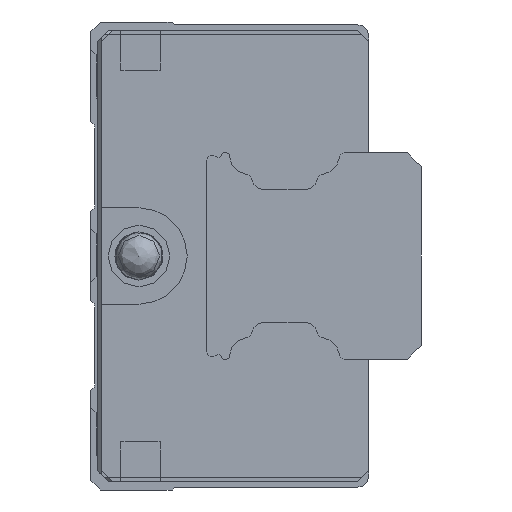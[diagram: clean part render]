
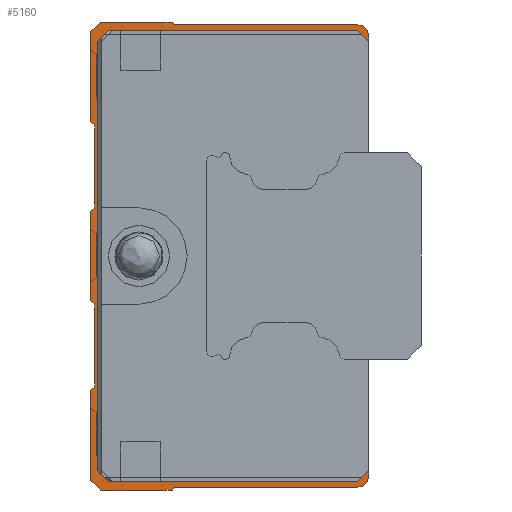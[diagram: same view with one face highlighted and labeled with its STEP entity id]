
A CAD part, left-side view. The second image highlights one B-rep face of the part: STEP entity #5160.
In plain terms, the highlighted planar face has unit normal (-1, 0, 0).
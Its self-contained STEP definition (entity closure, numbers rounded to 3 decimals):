
#67=LINE('',#7968,#383);
#76=LINE('',#7987,#392);
#83=LINE('',#8000,#399);
#109=LINE('',#8056,#425);
#117=LINE('',#8072,#433);
#123=LINE('',#8084,#439);
#148=LINE('',#8135,#464);
#153=LINE('',#8144,#469);
#155=LINE('',#8148,#471);
#159=LINE('',#8155,#475);
#163=LINE('',#8164,#479);
#166=LINE('',#8170,#482);
#170=LINE('',#8182,#486);
#174=LINE('',#8197,#490);
#178=LINE('',#8209,#494);
#181=LINE('',#8215,#497);
#184=LINE('',#8221,#500);
#187=LINE('',#8231,#503);
#190=LINE('',#8237,#506);
#194=LINE('',#8249,#510);
#198=LINE('',#8261,#514);
#201=LINE('',#8271,#517);
#204=LINE('',#8277,#520);
#208=LINE('',#8289,#524);
#212=LINE('',#8301,#528);
#215=LINE('',#8311,#531);
#383=VECTOR('',#6268,1000.);
#392=VECTOR('',#6283,1000.);
#399=VECTOR('',#6294,1000.);
#425=VECTOR('',#6334,1000.);
#433=VECTOR('',#6346,1000.);
#439=VECTOR('',#6358,1000.);
#464=VECTOR('',#6399,1000.);
#469=VECTOR('',#6406,1000.);
#471=VECTOR('',#6410,1000.);
#475=VECTOR('',#6416,1000.);
#479=VECTOR('',#6422,1000.);
#482=VECTOR('',#6427,1000.);
#486=VECTOR('',#6439,1000.);
#490=VECTOR('',#6457,1000.);
#494=VECTOR('',#6469,1000.);
#497=VECTOR('',#6474,1000.);
#500=VECTOR('',#6479,1000.);
#503=VECTOR('',#6488,1000.);
#506=VECTOR('',#6493,1000.);
#510=VECTOR('',#6505,1000.);
#514=VECTOR('',#6517,1000.);
#517=VECTOR('',#6526,1000.);
#520=VECTOR('',#6531,1000.);
#524=VECTOR('',#6543,1000.);
#528=VECTOR('',#6555,1000.);
#531=VECTOR('',#6564,1000.);
#733=PLANE('',#5588);
#1342=ORIENTED_EDGE('',*,*,#2398,.T.);
#1343=ORIENTED_EDGE('',*,*,#2405,.T.);
#1344=ORIENTED_EDGE('',*,*,#2478,.F.);
#1345=ORIENTED_EDGE('',*,*,#2500,.F.);
#1346=ORIENTED_EDGE('',*,*,#2497,.F.);
#1347=ORIENTED_EDGE('',*,*,#2494,.T.);
#1348=ORIENTED_EDGE('',*,*,#2491,.F.);
#1349=ORIENTED_EDGE('',*,*,#2488,.F.);
#1350=ORIENTED_EDGE('',*,*,#2484,.F.);
#1351=ORIENTED_EDGE('',*,*,#2562,.F.);
#1352=ORIENTED_EDGE('',*,*,#2557,.F.);
#1353=ORIENTED_EDGE('',*,*,#2554,.T.);
#1354=ORIENTED_EDGE('',*,*,#2551,.F.);
#1355=ORIENTED_EDGE('',*,*,#2548,.T.);
#1356=ORIENTED_EDGE('',*,*,#2545,.F.);
#1357=ORIENTED_EDGE('',*,*,#2542,.F.);
#1358=ORIENTED_EDGE('',*,*,#2537,.F.);
#1359=ORIENTED_EDGE('',*,*,#2534,.T.);
#1360=ORIENTED_EDGE('',*,*,#2531,.F.);
#1361=ORIENTED_EDGE('',*,*,#2528,.T.);
#1362=ORIENTED_EDGE('',*,*,#2525,.F.);
#1363=ORIENTED_EDGE('',*,*,#2522,.F.);
#1364=ORIENTED_EDGE('',*,*,#2517,.F.);
#1365=ORIENTED_EDGE('',*,*,#2514,.F.);
#1366=ORIENTED_EDGE('',*,*,#2511,.F.);
#1367=ORIENTED_EDGE('',*,*,#2508,.T.);
#1368=ORIENTED_EDGE('',*,*,#2505,.F.);
#1369=ORIENTED_EDGE('',*,*,#2502,.F.);
#1370=ORIENTED_EDGE('',*,*,#2480,.F.);
#1371=ORIENTED_EDGE('',*,*,#2440,.T.);
#1372=ORIENTED_EDGE('',*,*,#2447,.T.);
#1373=ORIENTED_EDGE('',*,*,#2432,.T.);
#1374=ORIENTED_EDGE('',*,*,#2473,.T.);
#1375=ORIENTED_EDGE('',*,*,#2388,.T.);
#2388=EDGE_CURVE('',#3047,#3046,#67,.T.);
#2398=EDGE_CURVE('',#3046,#3053,#76,.T.);
#2405=EDGE_CURVE('',#3053,#3057,#83,.T.);
#2432=EDGE_CURVE('',#3081,#3080,#109,.T.);
#2440=EDGE_CURVE('',#3087,#3086,#117,.T.);
#2447=EDGE_CURVE('',#3086,#3081,#123,.T.);
#2473=EDGE_CURVE('',#3080,#3047,#148,.T.);
#2478=EDGE_CURVE('',#3110,#3057,#153,.T.);
#2480=EDGE_CURVE('',#3087,#3112,#155,.T.);
#2484=EDGE_CURVE('',#3114,#3115,#159,.T.);
#2488=EDGE_CURVE('',#3115,#3118,#163,.T.);
#2491=EDGE_CURVE('',#3118,#3120,#166,.T.);
#2494=EDGE_CURVE('',#3122,#3120,#3543,.T.);
#2497=EDGE_CURVE('',#3122,#3124,#170,.T.);
#2500=EDGE_CURVE('',#3124,#3110,#3545,.T.);
#2502=EDGE_CURVE('',#3112,#3126,#3547,.T.);
#2505=EDGE_CURVE('',#3126,#3128,#174,.T.);
#2508=EDGE_CURVE('',#3130,#3128,#3549,.T.);
#2511=EDGE_CURVE('',#3130,#3132,#178,.T.);
#2514=EDGE_CURVE('',#3132,#3134,#181,.T.);
#2517=EDGE_CURVE('',#3134,#3136,#184,.T.);
#2522=EDGE_CURVE('',#3136,#3140,#187,.T.);
#2525=EDGE_CURVE('',#3140,#3142,#190,.T.);
#2528=EDGE_CURVE('',#3144,#3142,#3553,.T.);
#2531=EDGE_CURVE('',#3144,#3146,#194,.T.);
#2534=EDGE_CURVE('',#3148,#3146,#3555,.T.);
#2537=EDGE_CURVE('',#3148,#3150,#198,.T.);
#2542=EDGE_CURVE('',#3150,#3154,#201,.T.);
#2545=EDGE_CURVE('',#3154,#3156,#204,.T.);
#2548=EDGE_CURVE('',#3158,#3156,#3559,.T.);
#2551=EDGE_CURVE('',#3158,#3160,#208,.T.);
#2554=EDGE_CURVE('',#3162,#3160,#3561,.T.);
#2557=EDGE_CURVE('',#3162,#3164,#212,.T.);
#2562=EDGE_CURVE('',#3164,#3114,#215,.T.);
#3046=VERTEX_POINT('',#7967);
#3047=VERTEX_POINT('',#7969);
#3053=VERTEX_POINT('',#7986);
#3057=VERTEX_POINT('',#7999);
#3080=VERTEX_POINT('',#8055);
#3081=VERTEX_POINT('',#8057);
#3086=VERTEX_POINT('',#8071);
#3087=VERTEX_POINT('',#8073);
#3110=VERTEX_POINT('',#8143);
#3112=VERTEX_POINT('',#8149);
#3114=VERTEX_POINT('',#8156);
#3115=VERTEX_POINT('',#8157);
#3118=VERTEX_POINT('',#8165);
#3120=VERTEX_POINT('',#8171);
#3122=VERTEX_POINT('',#8177);
#3124=VERTEX_POINT('',#8183);
#3126=VERTEX_POINT('',#8192);
#3128=VERTEX_POINT('',#8198);
#3130=VERTEX_POINT('',#8204);
#3132=VERTEX_POINT('',#8210);
#3134=VERTEX_POINT('',#8216);
#3136=VERTEX_POINT('',#8222);
#3140=VERTEX_POINT('',#8232);
#3142=VERTEX_POINT('',#8238);
#3144=VERTEX_POINT('',#8244);
#3146=VERTEX_POINT('',#8250);
#3148=VERTEX_POINT('',#8256);
#3150=VERTEX_POINT('',#8262);
#3154=VERTEX_POINT('',#8272);
#3156=VERTEX_POINT('',#8278);
#3158=VERTEX_POINT('',#8284);
#3160=VERTEX_POINT('',#8290);
#3162=VERTEX_POINT('',#8296);
#3164=VERTEX_POINT('',#8302);
#3543=CIRCLE('',#5544,0.3);
#3545=CIRCLE('',#5548,0.8);
#3547=CIRCLE('',#5551,0.8);
#3549=CIRCLE('',#5555,0.3);
#3553=CIRCLE('',#5565,0.5);
#3555=CIRCLE('',#5569,0.5);
#3559=CIRCLE('',#5577,0.5);
#3561=CIRCLE('',#5581,0.5);
#3928=EDGE_LOOP('',(#1342,#1343,#1344,#1345,#1346,#1347,#1348,#1349,#1350,
#1351,#1352,#1353,#1354,#1355,#1356,#1357,#1358,#1359,#1360,#1361,#1362,
#1363,#1364,#1365,#1366,#1367,#1368,#1369,#1370,#1371,#1372,#1373,#1374,
#1375));
#4548=FACE_BOUND('',#3928,.T.);
#5160=ADVANCED_FACE('',(#4548),#733,.F.);
#5544=AXIS2_PLACEMENT_3D('',#8176,#6432,#6433);
#5548=AXIS2_PLACEMENT_3D('',#8188,#6444,#6445);
#5551=AXIS2_PLACEMENT_3D('',#8191,#6450,#6451);
#5555=AXIS2_PLACEMENT_3D('',#8203,#6462,#6463);
#5565=AXIS2_PLACEMENT_3D('',#8243,#6498,#6499);
#5569=AXIS2_PLACEMENT_3D('',#8255,#6510,#6511);
#5577=AXIS2_PLACEMENT_3D('',#8283,#6536,#6537);
#5581=AXIS2_PLACEMENT_3D('',#8295,#6548,#6549);
#5588=AXIS2_PLACEMENT_3D('',#8314,#6568,#6569);
#6268=DIRECTION('',(0.,-0.707,0.707));
#6283=DIRECTION('',(0.,-1.,0.));
#6294=DIRECTION('',(0.,-0.707,-0.707));
#6334=DIRECTION('',(0.,0.707,0.707));
#6346=DIRECTION('',(0.,0.707,-0.707));
#6358=DIRECTION('',(0.,1.,0.));
#6399=DIRECTION('',(0.,0.,1.));
#6406=DIRECTION('',(0.,0.,-1.));
#6410=DIRECTION('',(0.,0.,-1.));
#6416=DIRECTION('',(0.,-0.707,0.707));
#6422=DIRECTION('',(0.,-1.,0.));
#6427=DIRECTION('',(0.,-0.707,-0.707));
#6432=DIRECTION('',(1.,0.,0.));
#6433=DIRECTION('',(0.,0.,-1.));
#6439=DIRECTION('',(0.,-1.,0.));
#6444=DIRECTION('',(1.,0.,0.));
#6445=DIRECTION('',(0.,0.,-1.));
#6450=DIRECTION('',(1.,0.,0.));
#6451=DIRECTION('',(0.,0.,-1.));
#6457=DIRECTION('',(0.,1.,0.));
#6462=DIRECTION('',(1.,0.,0.));
#6463=DIRECTION('',(0.,0.,-1.));
#6469=DIRECTION('',(0.,0.707,-0.707));
#6474=DIRECTION('',(0.,1.,0.));
#6479=DIRECTION('',(0.,0.707,0.707));
#6488=DIRECTION('',(0.,0.,1.));
#6493=DIRECTION('',(0.,-0.707,0.707));
#6498=DIRECTION('',(1.,0.,0.));
#6499=DIRECTION('',(0.,0.,-1.));
#6505=DIRECTION('',(0.,0.,1.));
#6510=DIRECTION('',(1.,0.,0.));
#6511=DIRECTION('',(0.,0.,-1.));
#6517=DIRECTION('',(0.,0.707,0.707));
#6526=DIRECTION('',(0.,0.,1.));
#6531=DIRECTION('',(0.,-0.707,0.707));
#6536=DIRECTION('',(1.,0.,0.));
#6537=DIRECTION('',(0.,0.,-1.));
#6543=DIRECTION('',(0.,0.,1.));
#6548=DIRECTION('',(1.,0.,0.));
#6549=DIRECTION('',(0.,0.,-1.));
#6555=DIRECTION('',(0.,0.707,0.707));
#6564=DIRECTION('',(0.,0.,1.));
#6568=DIRECTION('',(1.,0.,0.));
#6569=DIRECTION('',(0.,0.,-1.));
#7967=CARTESIAN_POINT('',(-20.,18.9,16.4));
#7968=CARTESIAN_POINT('',(-20.,19.7,15.6));
#7969=CARTESIAN_POINT('',(-20.,19.7,15.6));
#7986=CARTESIAN_POINT('',(-20.,0.8,16.4));
#7987=CARTESIAN_POINT('',(-20.,18.9,16.4));
#7999=CARTESIAN_POINT('',(-20.,0.,15.6));
#8000=CARTESIAN_POINT('',(-20.,0.8,16.4));
#8055=CARTESIAN_POINT('',(-20.,19.7,-15.6));
#8056=CARTESIAN_POINT('',(-20.,18.9,-16.4));
#8057=CARTESIAN_POINT('',(-20.,18.9,-16.4));
#8071=CARTESIAN_POINT('',(-20.,0.8,-16.4));
#8072=CARTESIAN_POINT('',(-20.,0.,-15.6));
#8073=CARTESIAN_POINT('',(-20.,0.,-15.6));
#8084=CARTESIAN_POINT('',(-20.,0.8,-16.4));
#8135=CARTESIAN_POINT('',(-20.,19.7,-15.6));
#8143=CARTESIAN_POINT('',(-20.,0.,16.));
#8144=CARTESIAN_POINT('',(-20.,0.,16.));
#8148=CARTESIAN_POINT('',(-20.,0.,16.));
#8149=CARTESIAN_POINT('',(-20.,0.,-16.));
#8155=CARTESIAN_POINT('',(-20.,20.2,16.3));
#8156=CARTESIAN_POINT('',(-20.,20.2,16.3));
#8157=CARTESIAN_POINT('',(-20.,19.5,17.));
#8164=CARTESIAN_POINT('',(-20.,19.5,17.));
#8165=CARTESIAN_POINT('',(-20.,14.3,17.));
#8170=CARTESIAN_POINT('',(-20.,14.3,17.));
#8171=CARTESIAN_POINT('',(-20.,14.188,16.888));
#8176=CARTESIAN_POINT('',(-20.,13.976,17.1));
#8177=CARTESIAN_POINT('',(-20.,13.976,16.8));
#8182=CARTESIAN_POINT('',(-20.,13.976,16.8));
#8183=CARTESIAN_POINT('',(-20.,0.8,16.8));
#8188=CARTESIAN_POINT('',(-20.,0.8,16.));
#8191=CARTESIAN_POINT('',(-20.,0.8,-16.));
#8192=CARTESIAN_POINT('',(-20.,0.8,-16.8));
#8197=CARTESIAN_POINT('',(-20.,0.8,-16.8));
#8198=CARTESIAN_POINT('',(-20.,13.976,-16.8));
#8203=CARTESIAN_POINT('',(-20.,13.976,-17.1));
#8204=CARTESIAN_POINT('',(-20.,14.188,-16.888));
#8209=CARTESIAN_POINT('',(-20.,14.188,-16.888));
#8210=CARTESIAN_POINT('',(-20.,14.3,-17.));
#8215=CARTESIAN_POINT('',(-20.,14.3,-17.));
#8216=CARTESIAN_POINT('',(-20.,19.5,-17.));
#8221=CARTESIAN_POINT('',(-20.,19.5,-17.));
#8222=CARTESIAN_POINT('',(-20.,20.2,-16.3));
#8231=CARTESIAN_POINT('',(-20.,20.2,-16.3));
#8232=CARTESIAN_POINT('',(-20.,20.2,-9.8));
#8237=CARTESIAN_POINT('',(-20.,20.2,-9.8));
#8238=CARTESIAN_POINT('',(-20.,20.046,-9.646));
#8243=CARTESIAN_POINT('',(-20.,20.4,-9.293));
#8244=CARTESIAN_POINT('',(-20.,19.9,-9.293));
#8249=CARTESIAN_POINT('',(-20.,19.9,-9.293));
#8250=CARTESIAN_POINT('',(-20.,19.9,-3.707));
#8255=CARTESIAN_POINT('',(-20.,20.4,-3.707));
#8256=CARTESIAN_POINT('',(-20.,20.046,-3.354));
#8261=CARTESIAN_POINT('',(-20.,20.046,-3.354));
#8262=CARTESIAN_POINT('',(-20.,20.2,-3.2));
#8271=CARTESIAN_POINT('',(-20.,20.2,-3.2));
#8272=CARTESIAN_POINT('',(-20.,20.2,3.2));
#8277=CARTESIAN_POINT('',(-20.,20.2,3.2));
#8278=CARTESIAN_POINT('',(-20.,20.046,3.354));
#8283=CARTESIAN_POINT('',(-20.,20.4,3.707));
#8284=CARTESIAN_POINT('',(-20.,19.9,3.707));
#8289=CARTESIAN_POINT('',(-20.,19.9,3.707));
#8290=CARTESIAN_POINT('',(-20.,19.9,9.293));
#8295=CARTESIAN_POINT('',(-20.,20.4,9.293));
#8296=CARTESIAN_POINT('',(-20.,20.046,9.646));
#8301=CARTESIAN_POINT('',(-20.,20.046,9.646));
#8302=CARTESIAN_POINT('',(-20.,20.2,9.8));
#8311=CARTESIAN_POINT('',(-20.,20.2,9.8));
#8314=CARTESIAN_POINT('',(-20.,13.976,17.1));
